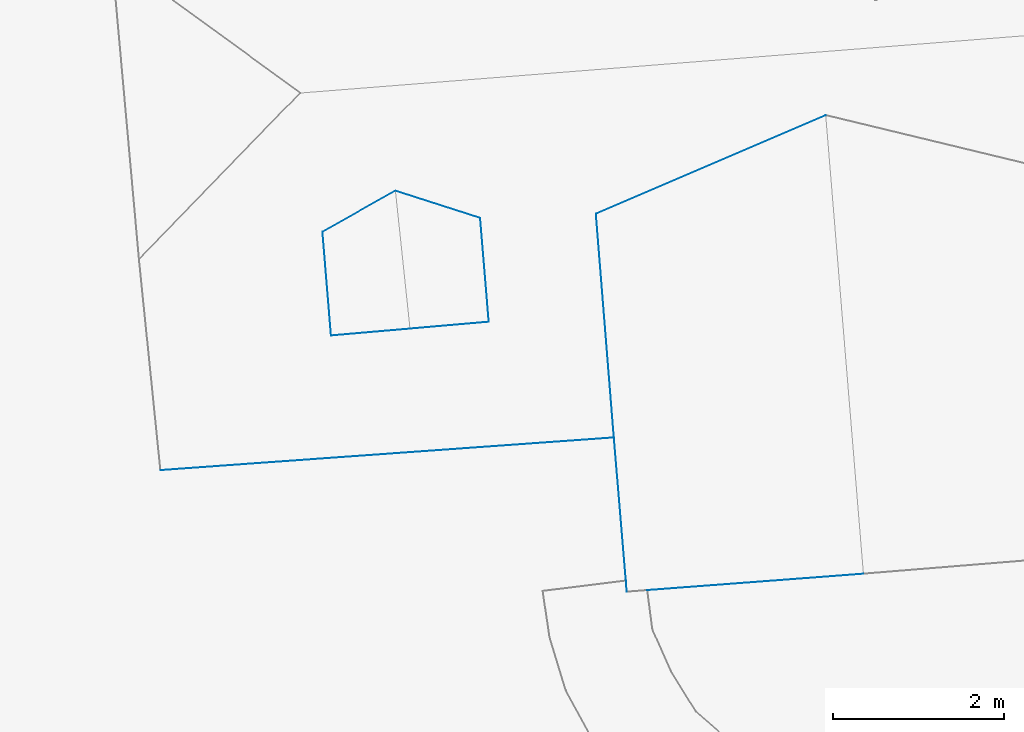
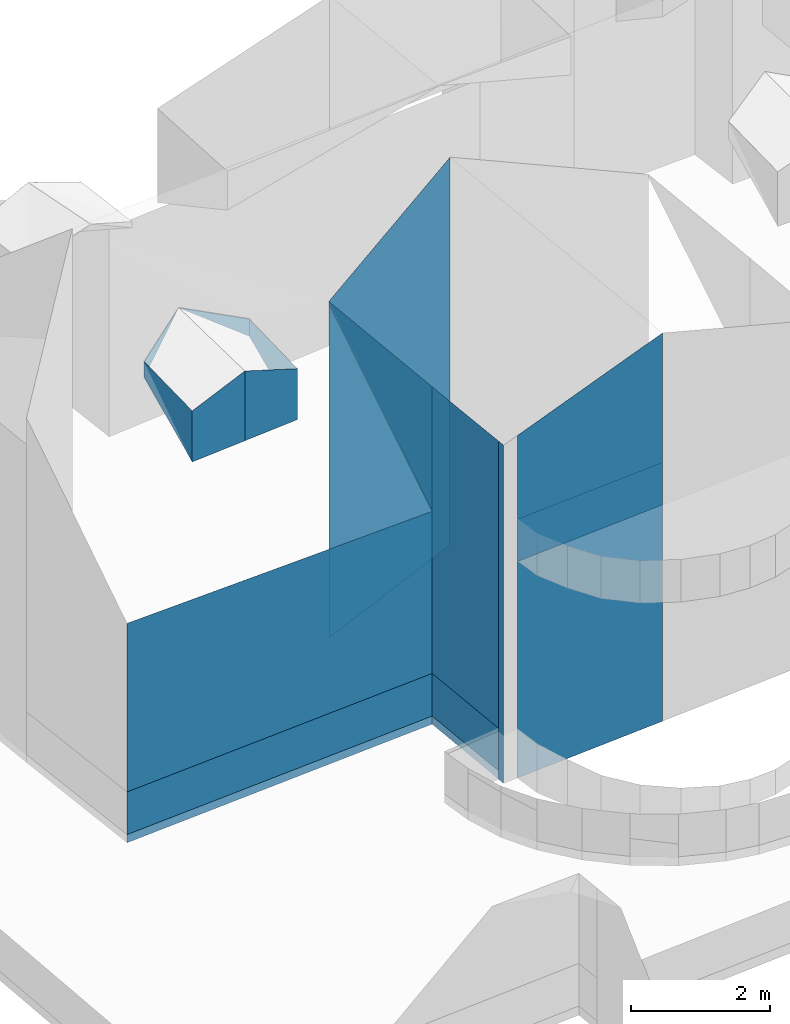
# Not in any storey, part 19 of 59: 19 walls.
"""IFC4 building model written with IfcOpenShell, lengths in metres."""

from ifc_helpers import new_model, entity, si_unit, converted_unit, frame, origin, place, context, subcontext, project, spatial, face_set, surface_model, element, save


model = new_model("IFC4")

# Units and contexts
model_context = context("Model", 3, precision=1e-05, world=origin())
body_context = subcontext(model_context, "Body", "Model", "MODEL_VIEW")
ifc_project = project(units=[converted_unit("PLANEANGLEUNIT", "DEGREE", entity("IfcRatioMeasure", 0.0174532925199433), si_unit("PLANEANGLEUNIT", "RADIAN"), dimensions=[0, 0, 0, 0, 0, 0, 0]), si_unit("AREAUNIT", "SQUARE_METRE"), si_unit("LENGTHUNIT", "METRE")], contexts=[model_context])

# Site, building
site_placement = place(None, origin())
site = spatial("IfcSite", under=ifc_project, at=site_placement, Name="_site")
building_placement = place(site_placement, origin())
building = spatial("IfcBuilding", under=site, at=building_placement, Name="_building")

# Walls
wall_1_placement = place(building_placement, origin())
element("IfcWall", 1, at=wall_1_placement, inside=building, Name="Wall", PredefinedType="NOTDEFINED", context=body_context, shape_type="SurfaceModel", body=[
    surface_model("IfcFaceBasedSurfaceModel", [(231.56, 96.221, 232.124), (232.41, 96.699, 232.484), (231.56, 96.221, 231.85)], [face_set([[[0, 1, 2]]])]),
])
wall_2_placement = place(building_placement, origin())
element("IfcWall", 2, at=wall_2_placement, inside=building, Name="Wall", PredefinedType="NOTDEFINED", context=body_context, shape_type="SurfaceModel", body=[
    surface_model("IfcFaceBasedSurfaceModel", [(232.41, 96.699, 232.484), (233.4, 96.381, 232.13), (233.4, 96.381, 231.83)], [face_set([[[0, 1, 2]]])]),
])
wall_3_placement = place(building_placement, origin())
element("IfcWall", 3, at=wall_3_placement, inside=building, Name="Wall", PredefinedType="NOTDEFINED", context=body_context, shape_type="SurfaceModel", body=[
    surface_model("IfcFaceBasedSurfaceModel", [(233.5, 95.17, 231.96), (232.58, 95.09, 232.29), (232.58, 95.09, 231.063), (233.5, 95.17, 231.066)], [face_set([[[0, 1, 2, 3]]])]),
])
wall_4_placement = place(building_placement, origin())
element("IfcWall", 4, at=wall_4_placement, inside=building, Name="Wall", PredefinedType="NOTDEFINED", context=body_context, shape_type="SurfaceModel", body=[
    surface_model("IfcFaceBasedSurfaceModel", [(232.58, 95.09, 232.29), (231.66, 95.01, 231.96), (231.66, 95.01, 231.061), (232.58, 95.09, 231.063)], [face_set([[[0, 1, 2, 3]]])]),
])
wall_5_placement = place(building_placement, origin())
element("IfcWall", 5, at=wall_5_placement, inside=building, Name="Wall", PredefinedType="NOTDEFINED", context=body_context, shape_type="SurfaceModel", body=[
    surface_model("IfcFaceBasedSurfaceModel", [(233.4, 96.381, 232.13), (233.5, 95.17, 231.96), (233.5, 95.17, 231.066), (233.4, 96.381, 231.83)], [face_set([[[0, 1, 2, 3]]])]),
])
wall_6_placement = place(building_placement, origin())
element("IfcWall", 6, at=wall_6_placement, inside=building, Name="Wall", PredefinedType="NOTDEFINED", context=body_context, shape_type="SurfaceModel", body=[
    surface_model("IfcFaceBasedSurfaceModel", [(231.66, 95.01, 231.96), (231.56, 96.221, 232.124), (231.56, 96.221, 231.85), (231.66, 95.01, 231.061)], [face_set([[[0, 1, 2, 3]]])]),
])
wall_7_placement = place(building_placement, origin())
element("IfcWall", 7, at=wall_7_placement, inside=building, Name="Wall", PredefinedType="NOTDEFINED", context=body_context, shape_type="SurfaceModel", body=[
    surface_model("IfcFaceBasedSurfaceModel", [(234.96, 93.82, 231.95), (234.75, 96.43, 231.94), (234.75, 96.43, 231.89), (234.96, 93.82, 229.76)], [face_set([[[0, 1, 2, 3]]])]),
])
for number, where, name in (
    (8, (0.0, 0.0, 0.0), "Wall"),
    (9, (0.0, 0.0, 0.0), "Wall"),
):
    element("IfcWall", number, at=place(building_placement, frame(where)), inside=building, Name=name, PredefinedType="NOTDEFINED", context=body_context, shape_type="SurfaceModel", body=[
        surface_model("IfcFaceBasedSurfaceModel", [(237.87, 92.23, 229.819), (235.35, 92.039, 229.819), (235.35, 92.039, 230.569), (237.87, 92.23, 230.569)], [face_set([[[0, 1, 2, 3]]])]),
    ])
wall_8_placement = place(building_placement, origin())
element("IfcWall", 10, at=wall_8_placement, inside=building, Name="Wall", PredefinedType="NOTDEFINED", context=body_context, shape_type="SurfaceModel", body=[
    surface_model("IfcFaceBasedSurfaceModel", [(234.75, 96.43, 231.94), (237.43, 97.58, 232.84), (237.43, 97.58, 226.021), (234.75, 96.43, 226.026)], [face_set([[[0, 1, 2, 3]]])]),
])
wall_9_placement = place(building_placement, origin())
element("IfcWall", 11, at=wall_9_placement, inside=building, Name="Wall", PredefinedType="NOTDEFINED", context=body_context, shape_type="SurfaceModel", body=[
    surface_model("IfcFaceBasedSurfaceModel", [(237.43, 97.58, 232.84), (234.75, 96.43, 231.94), (234.75, 96.43, 226.026), (237.43, 97.58, 226.021)], [face_set([[[0, 1, 2, 3]]])]),
])
wall_10_placement = place(building_placement, origin())
element("IfcWall", 12, at=wall_10_placement, inside=building, Name="Wall", PredefinedType="NOTDEFINED", context=body_context, shape_type="SurfaceModel", body=[
    surface_model("IfcFaceBasedSurfaceModel", [(237.87, 92.23, 232.84), (235.35, 92.039, 232.037), (235.35, 92.039, 226.017), (237.87, 92.23, 226.018)], [face_set([[[0, 1, 2, 3]]])]),
])
wall_11_placement = place(building_placement, origin())
element("IfcWall", 13, at=wall_11_placement, inside=building, Name="Wall", PredefinedType="NOTDEFINED", context=body_context, shape_type="SurfaceModel", body=[
    surface_model("IfcFaceBasedSurfaceModel", [(235.11, 92.02, 231.96), (235.1, 92.15, 231.959), (235.1, 92.15, 226.017), (235.11, 92.02, 226.017)], [face_set([[[0, 1, 2, 3]]])]),
])
wall_12_placement = place(building_placement, origin())
element("IfcWall", 14, at=wall_12_placement, inside=building, Name="Wall", PredefinedType="NOTDEFINED", context=body_context, shape_type="SurfaceModel", body=[
    surface_model("IfcFaceBasedSurfaceModel", [(235.1, 92.15, 231.959), (234.96, 93.82, 231.95), (234.96, 93.82, 226.021), (235.1, 92.15, 226.017)], [face_set([[[0, 1, 2, 3]]])]),
])
wall_13_placement = place(building_placement, origin())
element("IfcWall", 15, at=wall_13_placement, inside=building, Name="Wall", PredefinedType="NOTDEFINED", context=body_context, shape_type="SurfaceModel", body=[
    surface_model("IfcFaceBasedSurfaceModel", [(234.96, 93.82, 229.76), (229.67, 93.439, 229.876), (229.67, 93.439, 226.019), (234.96, 93.82, 226.021)], [face_set([[[0, 1, 2, 3]]])]),
])
for number, where, name in (
    (16, (0.0, 0.0, 0.0), "Wall"),
    (17, (0.0, 0.0, 0.0), "Wall"),
):
    element("IfcWall", number, at=place(building_placement, frame(where)), inside=building, Name=name, PredefinedType="NOTDEFINED", context=body_context, shape_type="SurfaceModel", body=[
        surface_model("IfcFaceBasedSurfaceModel", [(234.96, 93.82, 226.163), (229.67, 93.439, 226.163), (229.67, 93.439, 226.913), (234.96, 93.82, 226.913)], [face_set([[[0, 1, 2, 3]]])]),
    ])
for number, where, name in (
    (18, (0.0, 0.0, 0.0), "Wall"),
    (19, (0.0, 0.0, 0.0), "Wall"),
):
    element("IfcWall", number, at=place(building_placement, frame(where)), inside=building, Name=name, PredefinedType="NOTDEFINED", context=body_context, shape_type="SurfaceModel", body=[
        surface_model("IfcFaceBasedSurfaceModel", [(235.1, 92.15, 226.163), (234.96, 93.82, 226.163), (234.96, 93.82, 226.913), (235.1, 92.15, 226.913)], [face_set([[[0, 1, 2, 3]]])]),
    ])

save(model, "model.ifc")
